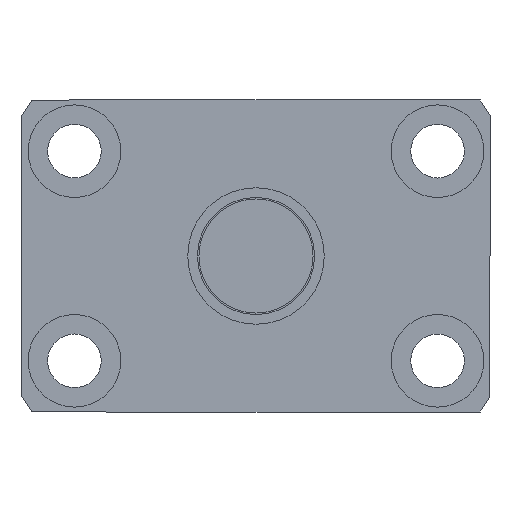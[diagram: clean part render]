
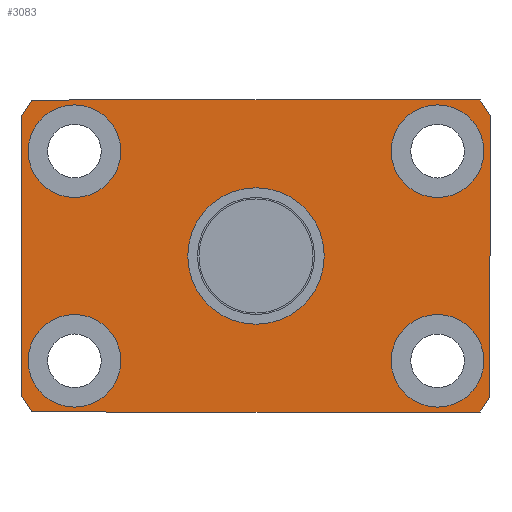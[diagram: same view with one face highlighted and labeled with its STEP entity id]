
A CAD part, left-side view. The second image highlights one B-rep face of the part: STEP entity #3083.
In plain terms, the highlighted planar face has unit normal (-1, 0, 0).
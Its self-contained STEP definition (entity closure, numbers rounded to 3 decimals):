
#479=CARTESIAN_POINT('',(307.686,23.37,-10.75));
#480=VERTEX_POINT('',#479);
#481=CARTESIAN_POINT('',(307.686,18.62,-10.75));
#482=DIRECTION('',(1.0,0.0,0.0));
#483=DIRECTION('',(0.0,1.0,0.0));
#484=AXIS2_PLACEMENT_3D('',#481,#482,#483);
#485=CIRCLE('',#484,4.75);
#486=EDGE_CURVE('',#480,#480,#485,.T.);
#547=CARTESIAN_POINT('',(307.686,-13.87,10.75));
#548=VERTEX_POINT('',#547);
#549=CARTESIAN_POINT('',(307.686,-18.62,10.75));
#550=DIRECTION('',(1.0,0.0,0.0));
#551=DIRECTION('',(0.0,1.0,0.0));
#552=AXIS2_PLACEMENT_3D('',#549,#550,#551);
#553=CIRCLE('',#552,4.75);
#554=EDGE_CURVE('',#548,#548,#553,.T.);
#615=CARTESIAN_POINT('',(307.686,23.37,10.75));
#616=VERTEX_POINT('',#615);
#617=CARTESIAN_POINT('',(307.686,18.62,10.75));
#618=DIRECTION('',(1.0,0.0,0.0));
#619=DIRECTION('',(0.0,1.0,0.0));
#620=AXIS2_PLACEMENT_3D('',#617,#618,#619);
#621=CIRCLE('',#620,4.75);
#622=EDGE_CURVE('',#616,#616,#621,.T.);
#683=CARTESIAN_POINT('',(307.686,-13.87,-10.75));
#684=VERTEX_POINT('',#683);
#685=CARTESIAN_POINT('',(307.686,-18.62,-10.75));
#686=DIRECTION('',(1.0,0.0,0.0));
#687=DIRECTION('',(0.0,1.0,0.0));
#688=AXIS2_PLACEMENT_3D('',#685,#686,#687);
#689=CIRCLE('',#688,4.75);
#690=EDGE_CURVE('',#684,#684,#689,.T.);
#2696=CARTESIAN_POINT('',(307.686,-24.,14.422));
#2697=VERTEX_POINT('',#2696);
#2704=CARTESIAN_POINT('',(307.686,-24.,-14.422));
#2705=VERTEX_POINT('',#2704);
#2706=CARTESIAN_POINT('',(307.686,-24.,14.422));
#2707=DIRECTION('',(0.0,0.0,-1.0));
#2708=VECTOR('',#2707,28.844);
#2709=LINE('',#2706,#2708);
#2710=EDGE_CURVE('',#2697,#2705,#2709,.T.);
#2735=CARTESIAN_POINT('',(307.686,-22.978,16.));
#2736=VERTEX_POINT('',#2735);
#2743=CARTESIAN_POINT('',(307.686,0.,0.0));
#2744=DIRECTION('',(1.0,0.0,0.0));
#2745=DIRECTION('',(0.0,1.0,0.0));
#2746=AXIS2_PLACEMENT_3D('',#2743,#2744,#2745);
#2747=CIRCLE('',#2746,28.);
#2748=EDGE_CURVE('',#2736,#2697,#2747,.T.);
#2767=CARTESIAN_POINT('',(307.686,22.978,16.0));
#2768=VERTEX_POINT('',#2767);
#2775=CARTESIAN_POINT('',(307.686,22.978,16.0));
#2776=DIRECTION('',(0.0,-1.0,0.0));
#2777=VECTOR('',#2776,45.957);
#2778=LINE('',#2775,#2777);
#2779=EDGE_CURVE('',#2768,#2736,#2778,.T.);
#2800=CARTESIAN_POINT('',(307.686,-22.978,-16.));
#2801=VERTEX_POINT('',#2800);
#2808=CARTESIAN_POINT('',(307.686,22.978,-16.));
#2809=VERTEX_POINT('',#2808);
#2810=CARTESIAN_POINT('',(307.686,-22.978,-16.));
#2811=DIRECTION('',(0.0,1.0,0.0));
#2812=VECTOR('',#2811,45.957);
#2813=LINE('',#2810,#2812);
#2814=EDGE_CURVE('',#2801,#2809,#2813,.T.);
#2839=CARTESIAN_POINT('',(307.686,24.,14.422));
#2840=VERTEX_POINT('',#2839);
#2847=CARTESIAN_POINT('',(307.686,0.,0.0));
#2848=DIRECTION('',(1.0,0.0,0.0));
#2849=DIRECTION('',(0.0,1.0,0.0));
#2850=AXIS2_PLACEMENT_3D('',#2847,#2848,#2849);
#2851=CIRCLE('',#2850,28.);
#2852=EDGE_CURVE('',#2840,#2768,#2851,.T.);
#2871=CARTESIAN_POINT('',(307.686,24.,-14.422));
#2872=VERTEX_POINT('',#2871);
#2879=CARTESIAN_POINT('',(307.686,24.,-14.422));
#2880=DIRECTION('',(0.0,0.0,1.0));
#2881=VECTOR('',#2880,28.844);
#2882=LINE('',#2879,#2881);
#2883=EDGE_CURVE('',#2872,#2840,#2882,.T.);
#2902=CARTESIAN_POINT('',(307.686,0.,0.0));
#2903=DIRECTION('',(1.0,0.0,0.0));
#2904=DIRECTION('',(0.0,1.0,0.0));
#2905=AXIS2_PLACEMENT_3D('',#2902,#2903,#2904);
#2906=CIRCLE('',#2905,28.);
#2907=EDGE_CURVE('',#2809,#2872,#2906,.T.);
#2926=CARTESIAN_POINT('',(307.686,0.,0.0));
#2927=DIRECTION('',(1.0,0.0,0.0));
#2928=DIRECTION('',(0.0,1.0,0.0));
#2929=AXIS2_PLACEMENT_3D('',#2926,#2927,#2928);
#2930=CIRCLE('',#2929,28.);
#2931=EDGE_CURVE('',#2705,#2801,#2930,.T.);
#2942=CARTESIAN_POINT('',(307.686,7.,0.0));
#2943=VERTEX_POINT('',#2942);
#2944=CARTESIAN_POINT('',(307.686,0.,0.0));
#2945=DIRECTION('',(1.0,0.0,0.0));
#2946=DIRECTION('',(0.0,1.0,0.0));
#2947=AXIS2_PLACEMENT_3D('',#2944,#2945,#2946);
#2948=CIRCLE('',#2947,7.);
#2949=EDGE_CURVE('',#2943,#2943,#2948,.T.);
#3053=CARTESIAN_POINT('',(307.686,11.5,0.0));
#3054=DIRECTION('',(-1.0,0.0,0.0));
#3055=DIRECTION('',(0.0,0.0,1.0));
#3056=AXIS2_PLACEMENT_3D('',#3053,#3054,#3055);
#3057=PLANE('',#3056);
#3058=ORIENTED_EDGE('',*,*,#2814,.F.);
#3059=ORIENTED_EDGE('',*,*,#2931,.F.);
#3060=ORIENTED_EDGE('',*,*,#2710,.F.);
#3061=ORIENTED_EDGE('',*,*,#2748,.F.);
#3062=ORIENTED_EDGE('',*,*,#2779,.F.);
#3063=ORIENTED_EDGE('',*,*,#2852,.F.);
#3064=ORIENTED_EDGE('',*,*,#2883,.F.);
#3065=ORIENTED_EDGE('',*,*,#2907,.F.);
#3066=EDGE_LOOP('',(#3058,#3059,#3060,#3061,#3062,#3063,#3064,#3065));
#3067=FACE_OUTER_BOUND('',#3066,.T.);
#3068=ORIENTED_EDGE('',*,*,#486,.T.);
#3069=EDGE_LOOP('',(#3068));
#3070=FACE_BOUND('',#3069,.T.);
#3071=ORIENTED_EDGE('',*,*,#554,.T.);
#3072=EDGE_LOOP('',(#3071));
#3073=FACE_BOUND('',#3072,.T.);
#3074=ORIENTED_EDGE('',*,*,#622,.T.);
#3075=EDGE_LOOP('',(#3074));
#3076=FACE_BOUND('',#3075,.T.);
#3077=ORIENTED_EDGE('',*,*,#690,.T.);
#3078=EDGE_LOOP('',(#3077));
#3079=FACE_BOUND('',#3078,.T.);
#3080=ORIENTED_EDGE('',*,*,#2949,.T.);
#3081=EDGE_LOOP('',(#3080));
#3082=FACE_BOUND('',#3081,.T.);
#3083=ADVANCED_FACE('',(#3067,#3070,#3073,#3076,#3079,#3082),#3057,.T.);
